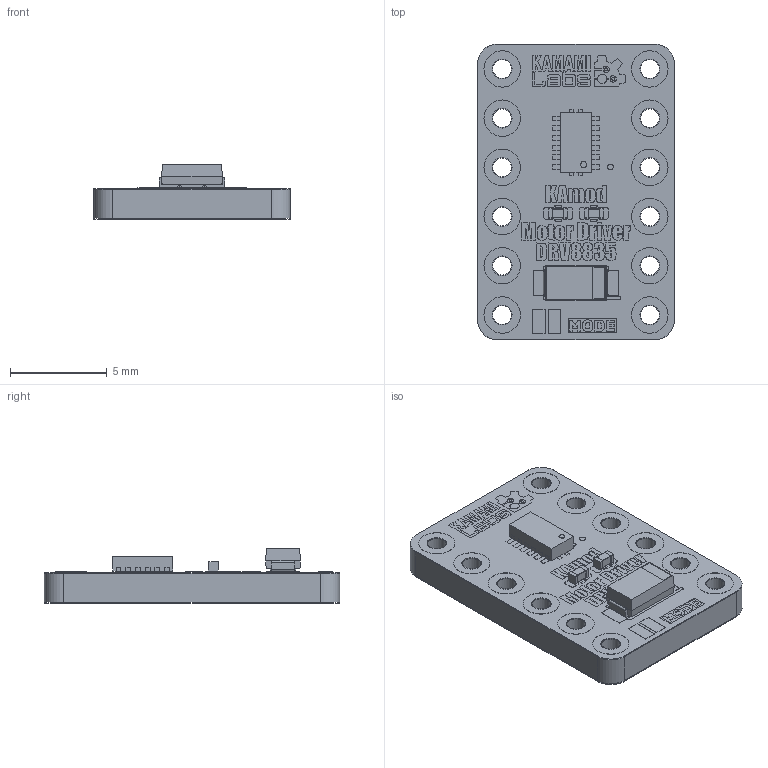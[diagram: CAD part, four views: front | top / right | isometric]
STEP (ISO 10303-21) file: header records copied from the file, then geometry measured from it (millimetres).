
FILE_DESCRIPTION(('KiCad electronic assembly'),'2;1');
FILE_NAME('drv8835.step','2026-05-04T08:30:33',('Pcbnew'),('Kicad'), 'Open CASCADE STEP processor 7.9','KiCad to STEP converter','Unknown' );
FILE_SCHEMA(('AUTOMOTIVE_DESIGN { 1 0 10303 214 1 1 1 1 }'));
Length unit declared in the file: millimetre
Products named in the file (9): drv8835 1; Texas_R-PWSON-N12_EP0.4x2mm; C_0402_1005Metric; CP_EIA-1608-08_AVX-J; CP_EIA-3216-10_Kemet-I; drv8835_pad; drv8835_silkscreen; drv8835_soldermask; drv8835_PCB
Assembly tree (9 placements, depth 2):
  drv8835 1
    Texas_R-PWSON-N12_EP0.4x2mm
    C_0402_1005Metric  x2
    CP_EIA-1608-08_AVX-J
    CP_EIA-3216-10_Kemet-I
    drv8835_pad
    drv8835_silkscreen
    drv8835_soldermask
    drv8835_PCB
Bounding box: 10.16 x 15.24 x 2.87 mm (x, y, z)
Volume: 233.1 mm3; surface area: 993.6 mm2
Topology: 76 solids, 155 shells, 675 faces, 3479 edges, 3045 vertices
Faces by surface type: plane 413, cylinder 160, bspline 102
Full cylindrical faces by diameter (mm): 0.15 x12, 0.2 x6, 0.4 x6, 0.966 x36, 1.016 x24, 1.88 x24
Entity records: 36731 total; most frequent: CARTESIAN_POINT 7693, DIRECTION 4839, ORIENTED_EDGE 4629, EDGE_CURVE 3407, VERTEX_POINT 2997, LINE 2497, VECTOR 2497, AXIS2_PLACEMENT_3D 1171
